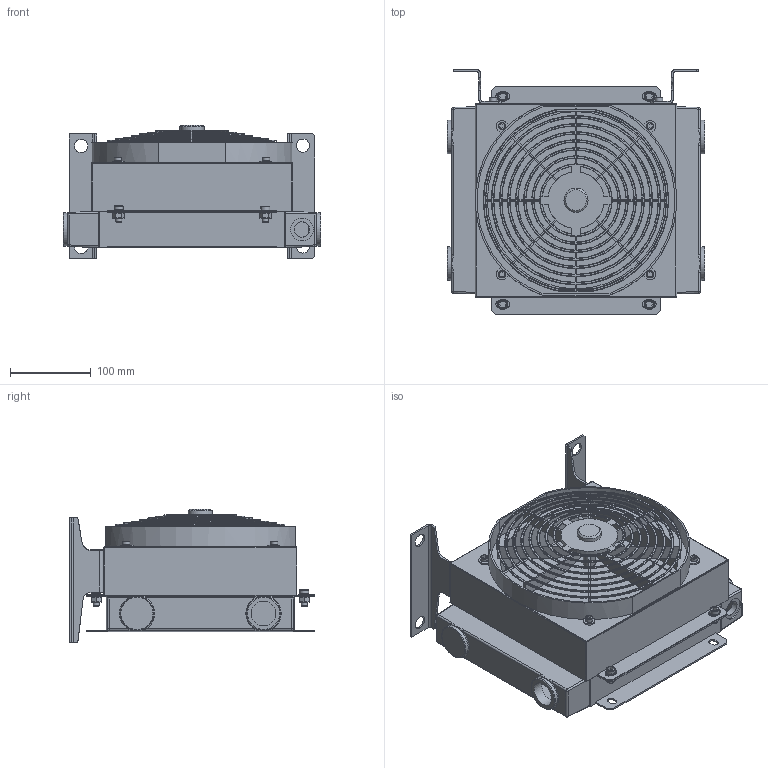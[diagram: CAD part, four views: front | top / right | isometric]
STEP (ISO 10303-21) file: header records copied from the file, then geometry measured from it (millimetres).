
FILE_DESCRIPTION(('STEP AP203'),'2;1');
FILE_NAME('SS151202A-P.stp','2015-02-10T08:19:03',(''),(''),'2012.1.115','THINKDESIGN','');
FILE_SCHEMA(('CONFIG_CONTROL_DESIGN'));
Bounding box: 320 x 303.5 x 166 mm (x, y, z)
Volume: 2934807.3 mm3; surface area: 649391.4 mm2
Topology: 40 solids, 40 shells, 892 faces, 2541 edges, 1794 vertices
Faces by surface type: plane 444, cylinder 240, bspline 208
Full cylindrical faces by diameter (mm): 3 x8, 6 x8, 6.5 x4, 6.75 x4, 7 x4, 8 x8, 8.5 x4, 9 x8, 11 x4, 15 x1, 16.5 x4, 19 x1, 28 x1, 30 x1, 30.5 x2, 42 x4, 70 x1, 220 x1
Entity records: 51275 total; most frequent: CARTESIAN_POINT 28813, DIRECTION 4764, ORIENTED_EDGE 3830, EDGE_CURVE 1915, AXIS2_PLACEMENT_3D 1658, VECTOR 1448, LINE 1448, VERTEX_POINT 1242
